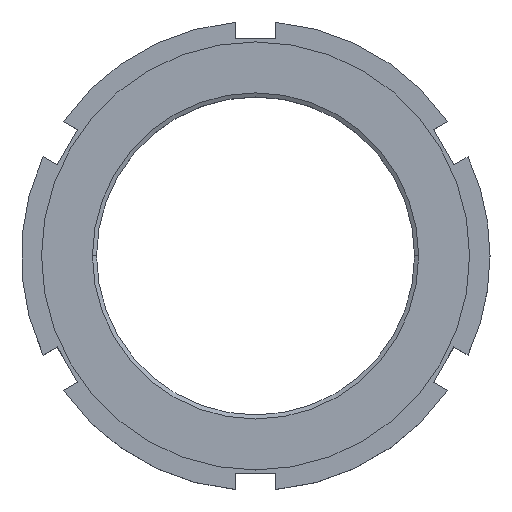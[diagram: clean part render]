
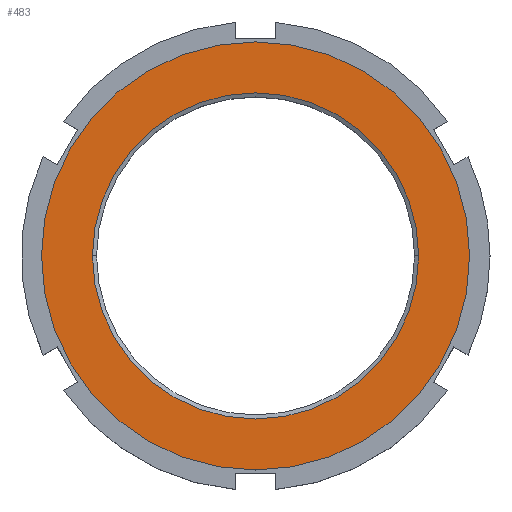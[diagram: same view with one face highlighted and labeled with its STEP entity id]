
A CAD part, top view. The second image highlights one B-rep face of the part: STEP entity #483.
In plain terms, the highlighted planar face has unit normal (0, 0, 1).
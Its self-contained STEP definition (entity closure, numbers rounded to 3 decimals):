
#29 = CIRCLE ( 'NONE', #525, 52.5 ) ;
#43 = DIRECTION ( 'NONE',  ( 0., 0., 1. ) ) ;
#59 = VERTEX_POINT ( 'NONE', #675 ) ;
#74 = CIRCLE ( 'NONE', #600, 52.5 ) ;
#99 = CARTESIAN_POINT ( 'NONE',  ( 40., 0., 0. ) ) ;
#101 = CARTESIAN_POINT ( 'NONE',  ( 0., 0., 0. ) ) ;
#140 = VERTEX_POINT ( 'NONE', #99 ) ;
#207 = VERTEX_POINT ( 'NONE', #880 ) ;
#209 = DIRECTION ( 'NONE',  ( 0., 0., 1. ) ) ;
#223 = FACE_BOUND ( 'NONE', #1187, .T. ) ;
#245 = CARTESIAN_POINT ( 'NONE',  ( 52.5, 0., 0. ) ) ;
#305 = EDGE_CURVE ( 'NONE', #207, #680, #29, .T. ) ;
#321 = FACE_OUTER_BOUND ( 'NONE', #931, .T. ) ;
#425 = AXIS2_PLACEMENT_3D ( 'NONE', #605, #43, #773 ) ;
#459 = EDGE_CURVE ( 'NONE', #59, #140, #781, .T. ) ;
#483 = ADVANCED_FACE ( 'NONE', ( #321, #223 ), #682, .T. ) ;
#491 = CARTESIAN_POINT ( 'NONE',  ( 0., 0., 0. ) ) ;
#495 = DIRECTION ( 'NONE',  ( 0., 0., 1. ) ) ;
#525 = AXIS2_PLACEMENT_3D ( 'NONE', #101, #678, #662 ) ;
#562 = ORIENTED_EDGE ( 'NONE', *, *, #652, .F. ) ;
#600 = AXIS2_PLACEMENT_3D ( 'NONE', #714, #968, #1059 ) ;
#605 = CARTESIAN_POINT ( 'NONE',  ( 0., 0., 0. ) ) ;
#652 = EDGE_CURVE ( 'NONE', #140, #59, #946, .T. ) ;
#662 = DIRECTION ( 'NONE',  ( 1., 0., 0. ) ) ;
#675 = CARTESIAN_POINT ( 'NONE',  ( -40., 0., 0. ) ) ;
#678 = DIRECTION ( 'NONE',  ( 0., 0., 1. ) ) ;
#680 = VERTEX_POINT ( 'NONE', #245 ) ;
#682 = PLANE ( 'NONE',  #1121 ) ;
#703 = ORIENTED_EDGE ( 'NONE', *, *, #305, .T. ) ;
#714 = CARTESIAN_POINT ( 'NONE',  ( 0., 0., 0. ) ) ;
#767 = CARTESIAN_POINT ( 'NONE',  ( 52.5, 0., 0. ) ) ;
#773 = DIRECTION ( 'NONE',  ( 1., 0., 0. ) ) ;
#781 = CIRCLE ( 'NONE', #792, 40. ) ;
#792 = AXIS2_PLACEMENT_3D ( 'NONE', #491, #495, #1126 ) ;
#853 = DIRECTION ( 'NONE',  ( 1., 0., 0. ) ) ;
#871 = ORIENTED_EDGE ( 'NONE', *, *, #459, .F. ) ;
#880 = CARTESIAN_POINT ( 'NONE',  ( -52.5, 0., 0. ) ) ;
#931 = EDGE_LOOP ( 'NONE', ( #1170, #703 ) ) ;
#946 = CIRCLE ( 'NONE', #425, 40. ) ;
#968 = DIRECTION ( 'NONE',  ( 0., 0., 1. ) ) ;
#1059 = DIRECTION ( 'NONE',  ( 1., 0., 0. ) ) ;
#1104 = EDGE_CURVE ( 'NONE', #680, #207, #74, .T. ) ;
#1121 = AXIS2_PLACEMENT_3D ( 'NONE', #767, #209, #853 ) ;
#1126 = DIRECTION ( 'NONE',  ( 1., 0., 0. ) ) ;
#1170 = ORIENTED_EDGE ( 'NONE', *, *, #1104, .T. ) ;
#1187 = EDGE_LOOP ( 'NONE', ( #562, #871 ) ) ;
